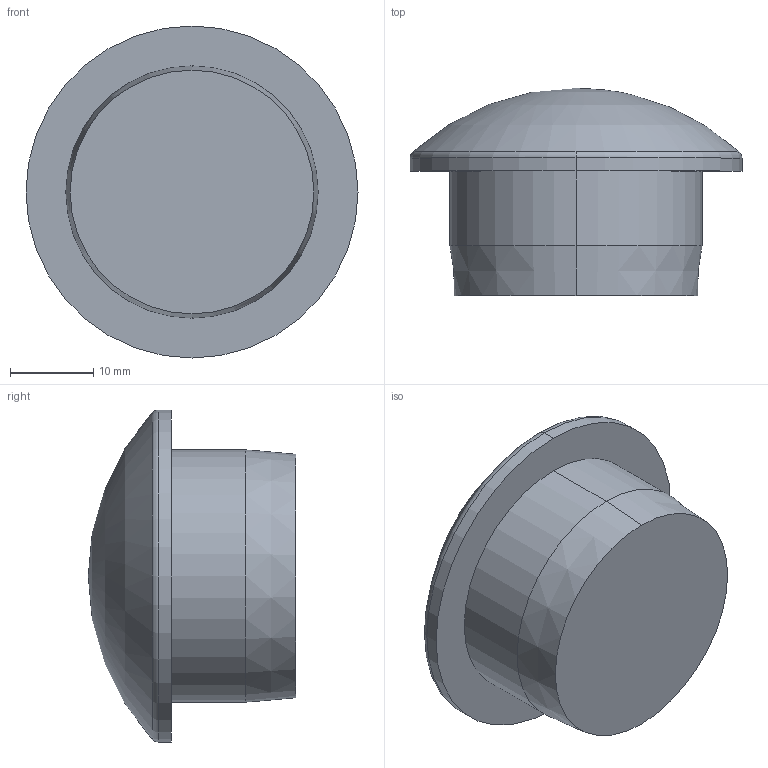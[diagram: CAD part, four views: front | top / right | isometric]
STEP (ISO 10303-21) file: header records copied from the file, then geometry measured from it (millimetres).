
FILE_DESCRIPTION (( 'STEP AP203' ), '1' );
FILE_NAME ('084.313.008-L.STEP', '2016-07-13T07:02:39', ( '' ), ( '' ), 'SwSTEP 2.0', 'SolidWorks 2016', '' );
FILE_SCHEMA (( 'CONFIG_CONTROL_DESIGN' ));
Length unit declared in the file: millimetre
Products named in the file (1): 084.313.008-L
Bounding box: 40 x 25 x 40 mm (x, y, z)
Volume: 18543.7 mm3; surface area: 4335 mm2
Topology: 1 solids, 1 shells, 11 faces, 23 edges, 14 vertices
Faces by surface type: cylinder 4, cone 2, torus 2, plane 2, sphere 1
Entity records: 353 total; most frequent: DIRECTION 58, CARTESIAN_POINT 44, ORIENTED_EDGE 40, AXIS2_PLACEMENT_3D 26, EDGE_CURVE 20, CIRCLE 14, EDGE_LOOP 12, VERTEX_POINT 12
